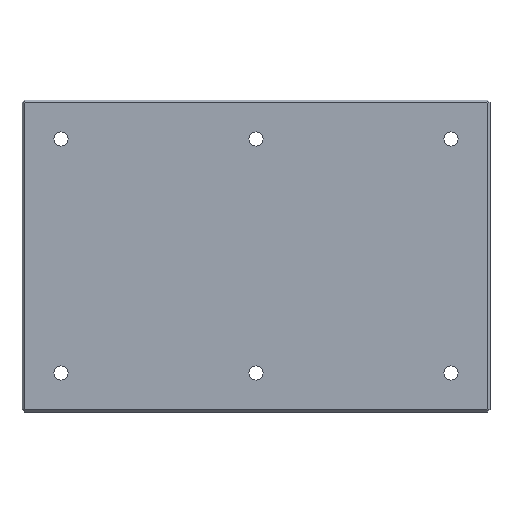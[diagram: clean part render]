
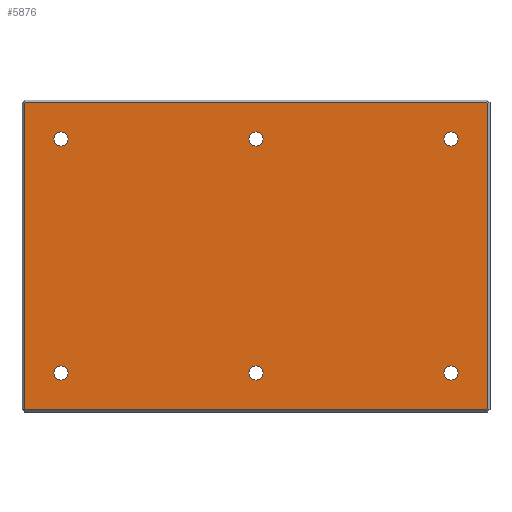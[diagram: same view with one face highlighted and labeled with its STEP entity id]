
A CAD part, front view. The second image highlights one B-rep face of the part: STEP entity #5876.
In plain terms, the highlighted planar face has unit normal (0, -1, 0).
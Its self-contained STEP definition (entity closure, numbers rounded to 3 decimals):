
#1=CARTESIAN_POINT('',(-250.,-30.,-150.));
#2=DIRECTION('',(0.,1.,0.));
#3=DIRECTION('',(1.,0.,0.));
#4=AXIS2_PLACEMENT_3D('',#1,#2,#3);
#6=CARTESIAN_POINT('',(-250.,-30.,-150.));
#7=DIRECTION('',(0.,1.,0.));
#8=DIRECTION('',(-1.,0.,0.));
#9=AXIS2_PLACEMENT_3D('',#6,#7,#8);
#11=CARTESIAN_POINT('',(0.,-30.,-150.));
#12=DIRECTION('',(0.,1.,0.));
#13=DIRECTION('',(1.,0.,0.));
#14=AXIS2_PLACEMENT_3D('',#11,#12,#13);
#16=CARTESIAN_POINT('',(0.,-30.,-150.));
#17=DIRECTION('',(0.,1.,0.));
#18=DIRECTION('',(-1.,0.,0.));
#19=AXIS2_PLACEMENT_3D('',#16,#17,#18);
#21=CARTESIAN_POINT('',(250.,-30.,-150.));
#22=DIRECTION('',(0.,1.,0.));
#23=DIRECTION('',(1.,0.,0.));
#24=AXIS2_PLACEMENT_3D('',#21,#22,#23);
#26=CARTESIAN_POINT('',(250.,-30.,-150.));
#27=DIRECTION('',(0.,1.,0.));
#28=DIRECTION('',(-1.,0.,0.));
#29=AXIS2_PLACEMENT_3D('',#26,#27,#28);
#31=CARTESIAN_POINT('',(-250.,-30.,150.));
#32=DIRECTION('',(0.,-1.,0.));
#33=DIRECTION('',(1.,0.,0.));
#34=AXIS2_PLACEMENT_3D('',#31,#32,#33);
#36=CARTESIAN_POINT('',(-250.,-30.,150.));
#37=DIRECTION('',(0.,-1.,0.));
#38=DIRECTION('',(-1.,0.,0.));
#39=AXIS2_PLACEMENT_3D('',#36,#37,#38);
#41=CARTESIAN_POINT('',(0.,-30.,150.));
#42=DIRECTION('',(0.,-1.,0.));
#43=DIRECTION('',(1.,0.,0.));
#44=AXIS2_PLACEMENT_3D('',#41,#42,#43);
#46=CARTESIAN_POINT('',(0.,-30.,150.));
#47=DIRECTION('',(0.,-1.,0.));
#48=DIRECTION('',(-1.,0.,0.));
#49=AXIS2_PLACEMENT_3D('',#46,#47,#48);
#51=CARTESIAN_POINT('',(250.,-30.,150.));
#52=DIRECTION('',(0.,-1.,0.));
#53=DIRECTION('',(1.,0.,0.));
#54=AXIS2_PLACEMENT_3D('',#51,#52,#53);
#56=CARTESIAN_POINT('',(250.,-30.,150.));
#57=DIRECTION('',(0.,-1.,0.));
#58=DIRECTION('',(-1.,0.,0.));
#59=AXIS2_PLACEMENT_3D('',#56,#57,#58);
#61=DIRECTION('',(0.707,0.,-0.707));
#62=VECTOR('',#61,1.757);
#63=CARTESIAN_POINT('',(-297.,-30.,-195.757));
#64=LINE('',#63,#62);
#65=DIRECTION('',(0.,0.,-1.));
#66=VECTOR('',#65,391.515);
#67=CARTESIAN_POINT('',(-297.,-30.,195.757));
#68=LINE('',#67,#66);
#69=DIRECTION('',(-0.707,0.,-0.707));
#70=VECTOR('',#69,1.757);
#71=CARTESIAN_POINT('',(-295.757,-30.,197.));
#72=LINE('',#71,#70);
#73=DIRECTION('',(-1.,0.,0.));
#74=VECTOR('',#73,591.515);
#75=CARTESIAN_POINT('',(295.757,-30.,197.));
#76=LINE('',#75,#74);
#77=DIRECTION('',(-0.707,0.,0.707));
#78=VECTOR('',#77,1.757);
#79=CARTESIAN_POINT('',(297.,-30.,195.757));
#80=LINE('',#79,#78);
#81=DIRECTION('',(0.,0.,1.));
#82=VECTOR('',#81,391.515);
#83=CARTESIAN_POINT('',(297.,-30.,-195.757));
#84=LINE('',#83,#82);
#85=DIRECTION('',(0.707,0.,0.707));
#86=VECTOR('',#85,1.757);
#87=CARTESIAN_POINT('',(295.757,-30.,-197.));
#88=LINE('',#87,#86);
#89=DIRECTION('',(1.,0.,0.));
#90=VECTOR('',#89,591.515);
#91=CARTESIAN_POINT('',(-295.757,-30.,-197.));
#92=LINE('',#91,#90);
#5345=CARTESIAN_POINT('',(-241.,-30.,-150.));
#5346=CARTESIAN_POINT('',(-259.,-30.,-150.));
#5347=VERTEX_POINT('',#5345);
#5348=VERTEX_POINT('',#5346);
#5389=CARTESIAN_POINT('',(9.,-30.,-150.));
#5390=CARTESIAN_POINT('',(-9.,-30.,-150.));
#5391=VERTEX_POINT('',#5389);
#5392=VERTEX_POINT('',#5390);
#5417=CARTESIAN_POINT('',(259.,-30.,-150.));
#5418=CARTESIAN_POINT('',(241.,-30.,-150.));
#5419=VERTEX_POINT('',#5417);
#5420=VERTEX_POINT('',#5418);
#5461=CARTESIAN_POINT('',(-241.,-30.,150.));
#5462=VERTEX_POINT('',#5461);
#5463=CARTESIAN_POINT('',(-259.,-30.,150.));
#5464=VERTEX_POINT('',#5463);
#5473=CARTESIAN_POINT('',(9.,-30.,150.));
#5474=VERTEX_POINT('',#5473);
#5475=CARTESIAN_POINT('',(-9.,-30.,150.));
#5476=VERTEX_POINT('',#5475);
#5485=CARTESIAN_POINT('',(259.,-30.,150.));
#5486=VERTEX_POINT('',#5485);
#5487=CARTESIAN_POINT('',(241.,-30.,150.));
#5488=VERTEX_POINT('',#5487);
#5697=CARTESIAN_POINT('',(-297.,-30.,-195.757));
#5698=CARTESIAN_POINT('',(-295.757,-30.,-197.));
#5699=VERTEX_POINT('',#5697);
#5700=VERTEX_POINT('',#5698);
#5707=CARTESIAN_POINT('',(295.757,-30.,-197.));
#5708=VERTEX_POINT('',#5707);
#5709=CARTESIAN_POINT('',(297.,-30.,-195.757));
#5710=VERTEX_POINT('',#5709);
#5715=CARTESIAN_POINT('',(297.,-30.,195.757));
#5716=VERTEX_POINT('',#5715);
#5717=CARTESIAN_POINT('',(295.757,-30.,197.));
#5718=VERTEX_POINT('',#5717);
#5723=CARTESIAN_POINT('',(-295.757,-30.,197.));
#5724=VERTEX_POINT('',#5723);
#5727=CARTESIAN_POINT('',(-297.,-30.,195.757));
#5728=VERTEX_POINT('',#5727);
#5817=CARTESIAN_POINT('',(0.,-30.,0.));
#5818=DIRECTION('',(0.,1.,0.));
#5819=DIRECTION('',(1.,0.,0.));
#5820=AXIS2_PLACEMENT_3D('',#5817,#5818,#5819);
#5821=PLANE('',#5820);
#5823=ORIENTED_EDGE('',*,*,#5822,.F.);
#5825=ORIENTED_EDGE('',*,*,#5824,.F.);
#5827=ORIENTED_EDGE('',*,*,#5826,.F.);
#5829=ORIENTED_EDGE('',*,*,#5828,.F.);
#5831=ORIENTED_EDGE('',*,*,#5830,.F.);
#5833=ORIENTED_EDGE('',*,*,#5832,.F.);
#5835=ORIENTED_EDGE('',*,*,#5834,.F.);
#5837=ORIENTED_EDGE('',*,*,#5836,.F.);
#5838=EDGE_LOOP('',(#5823,#5825,#5827,#5829,#5831,#5833,#5835,#5837));
#5839=FACE_OUTER_BOUND('',#5838,.F.);
#5841=ORIENTED_EDGE('',*,*,#5840,.F.);
#5843=ORIENTED_EDGE('',*,*,#5842,.F.);
#5844=EDGE_LOOP('',(#5841,#5843));
#5845=FACE_BOUND('',#5844,.F.);
#5847=ORIENTED_EDGE('',*,*,#5846,.F.);
#5849=ORIENTED_EDGE('',*,*,#5848,.F.);
#5850=EDGE_LOOP('',(#5847,#5849));
#5851=FACE_BOUND('',#5850,.F.);
#5853=ORIENTED_EDGE('',*,*,#5852,.T.);
#5855=ORIENTED_EDGE('',*,*,#5854,.T.);
#5856=EDGE_LOOP('',(#5853,#5855));
#5857=FACE_BOUND('',#5856,.F.);
#5859=ORIENTED_EDGE('',*,*,#5858,.T.);
#5861=ORIENTED_EDGE('',*,*,#5860,.T.);
#5862=EDGE_LOOP('',(#5859,#5861));
#5863=FACE_BOUND('',#5862,.F.);
#5865=ORIENTED_EDGE('',*,*,#5864,.T.);
#5867=ORIENTED_EDGE('',*,*,#5866,.T.);
#5868=EDGE_LOOP('',(#5865,#5867));
#5869=FACE_BOUND('',#5868,.F.);
#5871=ORIENTED_EDGE('',*,*,#5870,.F.);
#5873=ORIENTED_EDGE('',*,*,#5872,.F.);
#5874=EDGE_LOOP('',(#5871,#5873));
#5875=FACE_BOUND('',#5874,.F.);
#5876=ADVANCED_FACE('',(#5839,#5845,#5851,#5857,#5863,#5869,#5875),#5821,.F.);
#5=CIRCLE('',#4,9.);
#10=CIRCLE('',#9,9.);
#15=CIRCLE('',#14,9.);
#20=CIRCLE('',#19,9.);
#25=CIRCLE('',#24,9.);
#30=CIRCLE('',#29,9.);
#35=CIRCLE('',#34,9.);
#40=CIRCLE('',#39,9.);
#45=CIRCLE('',#44,9.);
#50=CIRCLE('',#49,9.);
#55=CIRCLE('',#54,9.);
#60=CIRCLE('',#59,9.);
#5822=EDGE_CURVE('',#5699,#5700,#64,.T.);
#5824=EDGE_CURVE('',#5728,#5699,#68,.T.);
#5826=EDGE_CURVE('',#5724,#5728,#72,.T.);
#5828=EDGE_CURVE('',#5718,#5724,#76,.T.);
#5830=EDGE_CURVE('',#5716,#5718,#80,.T.);
#5832=EDGE_CURVE('',#5710,#5716,#84,.T.);
#5834=EDGE_CURVE('',#5708,#5710,#88,.T.);
#5836=EDGE_CURVE('',#5700,#5708,#92,.T.);
#5840=EDGE_CURVE('',#5391,#5392,#15,.T.);
#5842=EDGE_CURVE('',#5392,#5391,#20,.T.);
#5846=EDGE_CURVE('',#5419,#5420,#25,.T.);
#5848=EDGE_CURVE('',#5420,#5419,#30,.T.);
#5852=EDGE_CURVE('',#5462,#5464,#35,.T.);
#5854=EDGE_CURVE('',#5464,#5462,#40,.T.);
#5858=EDGE_CURVE('',#5474,#5476,#45,.T.);
#5860=EDGE_CURVE('',#5476,#5474,#50,.T.);
#5864=EDGE_CURVE('',#5486,#5488,#55,.T.);
#5866=EDGE_CURVE('',#5488,#5486,#60,.T.);
#5870=EDGE_CURVE('',#5347,#5348,#5,.T.);
#5872=EDGE_CURVE('',#5348,#5347,#10,.T.);
